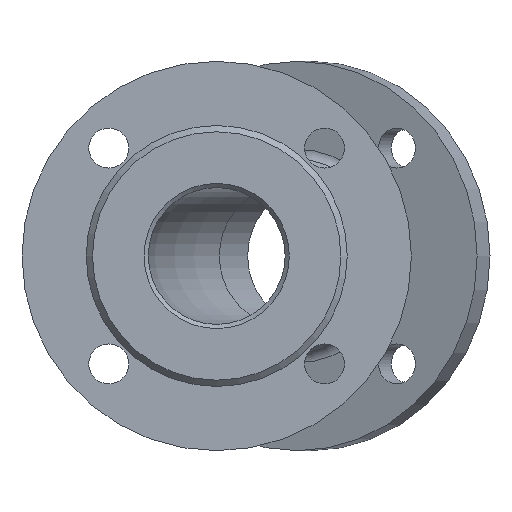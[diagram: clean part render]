
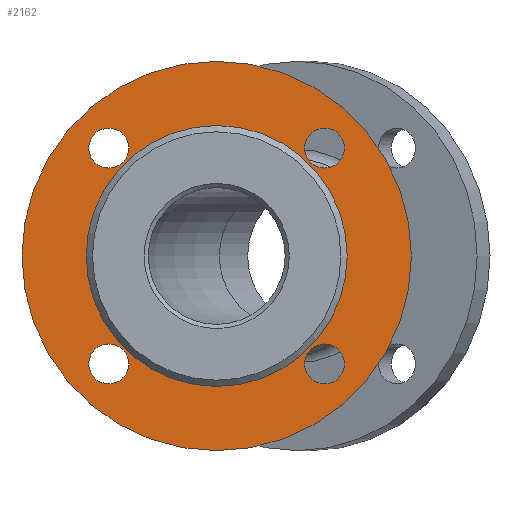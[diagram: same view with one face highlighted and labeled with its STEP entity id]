
A CAD part, left-side view. The second image highlights one B-rep face of the part: STEP entity #2162.
In plain terms, the highlighted planar face has unit normal (-1, 0, 0).
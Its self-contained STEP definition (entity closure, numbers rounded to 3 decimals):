
#16 = AXIS2_PLACEMENT_3D ( 'NONE', #589, #641, #87 ) ;
#75 = VERTEX_POINT ( 'NONE', #3300 ) ;
#80 = ORIENTED_EDGE ( 'NONE', *, *, #1536, .T. ) ;
#87 = DIRECTION ( 'NONE',  ( 0., 0., -1. ) ) ;
#144 = CARTESIAN_POINT ( 'NONE',  ( -116., -51.265, 41.765 ) ) ;
#217 = CARTESIAN_POINT ( 'NONE',  ( -116., 51.265, 51.265 ) ) ;
#227 = FACE_BOUND ( 'NONE', #2772, .T. ) ;
#244 = DIRECTION ( 'NONE',  ( 0., 0., -1. ) ) ;
#286 = EDGE_CURVE ( 'NONE', #887, #887, #919, .T. ) ;
#357 = AXIS2_PLACEMENT_3D ( 'NONE', #3171, #2941, #244 ) ;
#370 = EDGE_LOOP ( 'NONE', ( #2491 ) ) ;
#400 = EDGE_CURVE ( 'NONE', #3065, #3065, #2389, .T. ) ;
#447 = VERTEX_POINT ( 'NONE', #995 ) ;
#589 = CARTESIAN_POINT ( 'NONE',  ( -116., 0., 0. ) ) ;
#641 = DIRECTION ( 'NONE',  ( 1., 0., 0. ) ) ;
#661 = VERTEX_POINT ( 'NONE', #1202 ) ;
#705 = AXIS2_PLACEMENT_3D ( 'NONE', #3066, #3366, #2042 ) ;
#798 = CARTESIAN_POINT ( 'NONE',  ( -116., -51.265, 51.265 ) ) ;
#824 = ORIENTED_EDGE ( 'NONE', *, *, #1331, .F. ) ;
#887 = VERTEX_POINT ( 'NONE', #1969 ) ;
#919 = CIRCLE ( 'NONE', #3109, 9.5 ) ;
#995 = CARTESIAN_POINT ( 'NONE',  ( -116., 0., -62. ) ) ;
#1202 = CARTESIAN_POINT ( 'NONE',  ( -116., 51.265, -60.765 ) ) ;
#1295 = PLANE ( 'NONE',  #357 ) ;
#1301 = DIRECTION ( 'NONE',  ( 0., 0., -1. ) ) ;
#1331 = EDGE_CURVE ( 'NONE', #661, #661, #1768, .T. ) ;
#1369 = CIRCLE ( 'NONE', #705, 9.5 ) ;
#1457 = ORIENTED_EDGE ( 'NONE', *, *, #400, .F. ) ;
#1536 = EDGE_CURVE ( 'NONE', #447, #447, #2222, .T. ) ;
#1561 = FACE_BOUND ( 'NONE', #2597, .T. ) ;
#1592 = DIRECTION ( 'NONE',  ( 0., 0., -1. ) ) ;
#1602 = ORIENTED_EDGE ( 'NONE', *, *, #286, .F. ) ;
#1638 = ORIENTED_EDGE ( 'NONE', *, *, #3395, .F. ) ;
#1652 = EDGE_CURVE ( 'NONE', #1755, #1755, #1369, .T. ) ;
#1755 = VERTEX_POINT ( 'NONE', #3401 ) ;
#1768 = CIRCLE ( 'NONE', #3448, 9.5 ) ;
#1874 = DIRECTION ( 'NONE',  ( -1., 0., 0. ) ) ;
#1942 = AXIS2_PLACEMENT_3D ( 'NONE', #3402, #2061, #3098 ) ;
#1955 = DIRECTION ( 'NONE',  ( -1., 0., 0. ) ) ;
#1969 = CARTESIAN_POINT ( 'NONE',  ( -116., 51.265, 41.765 ) ) ;
#2042 = DIRECTION ( 'NONE',  ( 0., 0., -1. ) ) ;
#2061 = DIRECTION ( 'NONE',  ( 1., 0., 0. ) ) ;
#2099 = EDGE_LOOP ( 'NONE', ( #80 ) ) ;
#2160 = FACE_OUTER_BOUND ( 'NONE', #2299, .T. ) ;
#2162 = ADVANCED_FACE ( 'NONE', ( #1561, #2370, #2160, #2958, #227, #2628 ), #1295, .F. ) ;
#2222 = CIRCLE ( 'NONE', #1942, 62. ) ;
#2279 = AXIS2_PLACEMENT_3D ( 'NONE', #798, #1874, #1592 ) ;
#2299 = EDGE_LOOP ( 'NONE', ( #1638 ) ) ;
#2370 = FACE_BOUND ( 'NONE', #370, .T. ) ;
#2389 = CIRCLE ( 'NONE', #2279, 9.5 ) ;
#2491 = ORIENTED_EDGE ( 'NONE', *, *, #1652, .F. ) ;
#2597 = EDGE_LOOP ( 'NONE', ( #1602 ) ) ;
#2628 = FACE_BOUND ( 'NONE', #2905, .T. ) ;
#2772 = EDGE_LOOP ( 'NONE', ( #1457 ) ) ;
#2905 = EDGE_LOOP ( 'NONE', ( #824 ) ) ;
#2941 = DIRECTION ( 'NONE',  ( 1., 0., 0. ) ) ;
#2958 = FACE_BOUND ( 'NONE', #2099, .T. ) ;
#3015 = DIRECTION ( 'NONE',  ( 0., 0., -1. ) ) ;
#3057 = CIRCLE ( 'NONE', #16, 92.5 ) ;
#3065 = VERTEX_POINT ( 'NONE', #144 ) ;
#3066 = CARTESIAN_POINT ( 'NONE',  ( -116., -51.265, -51.265 ) ) ;
#3098 = DIRECTION ( 'NONE',  ( 0., 0., -1. ) ) ;
#3109 = AXIS2_PLACEMENT_3D ( 'NONE', #217, #3125, #1301 ) ;
#3125 = DIRECTION ( 'NONE',  ( -1., 0., 0. ) ) ;
#3171 = CARTESIAN_POINT ( 'NONE',  ( -116., 92.5, 0. ) ) ;
#3274 = CARTESIAN_POINT ( 'NONE',  ( -116., 51.265, -51.265 ) ) ;
#3300 = CARTESIAN_POINT ( 'NONE',  ( -116., 0., -92.5 ) ) ;
#3366 = DIRECTION ( 'NONE',  ( -1., 0., 0. ) ) ;
#3395 = EDGE_CURVE ( 'NONE', #75, #75, #3057, .T. ) ;
#3401 = CARTESIAN_POINT ( 'NONE',  ( -116., -51.265, -60.765 ) ) ;
#3402 = CARTESIAN_POINT ( 'NONE',  ( -116., 0., 0. ) ) ;
#3448 = AXIS2_PLACEMENT_3D ( 'NONE', #3274, #1955, #3015 ) ;
